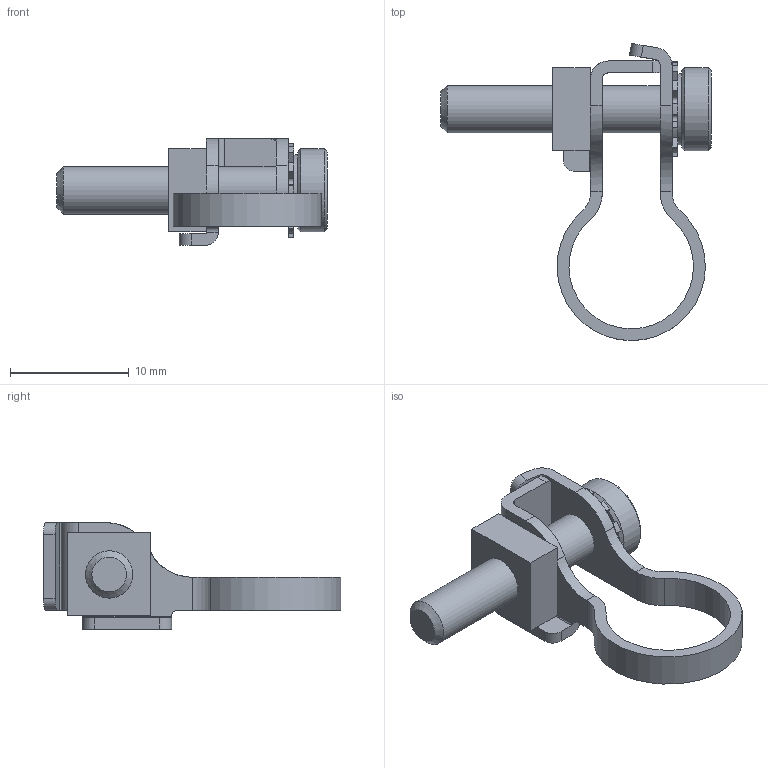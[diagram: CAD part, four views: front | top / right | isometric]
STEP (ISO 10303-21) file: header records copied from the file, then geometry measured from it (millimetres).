
FILE_DESCRIPTION( ( 'STEP AP203' ), '1' );
FILE_NAME( 'p:/temp/worker_148/temp/exporttempdir_3168_93_HBTai/format_0/E40234.stp', '2020-04-06T10:51:12', ( 'License CC BY-ND 4.0' ), ( 'CADENAS' ), ' ', 'PARTsolutions', ' ' );
FILE_SCHEMA( ( 'CONFIG_CONTROL_DESIGN' ) );
Length unit declared in the file: millimetre
Products named in the file (1): _E40234
Bounding box: 22.8 x 25.06 x 9 mm (x, y, z)
Volume: 753.3 mm3; surface area: 1108.3 mm2
Topology: 1 solids, 1 shells, 149 faces, 394 edges, 248 vertices
Faces by surface type: plane 94, cylinder 52, cone 3
Full cylindrical faces by diameter (mm): 4 x2, 6 x1, 7 x1
Entity records: 4598 total; most frequent: DIRECTION 816, CARTESIAN_POINT 797, ORIENTED_EDGE 770, EDGE_CURVE 385, AXIS2_PLACEMENT_3D 285, VERTEX_POINT 246, LINE 246, VECTOR 246
